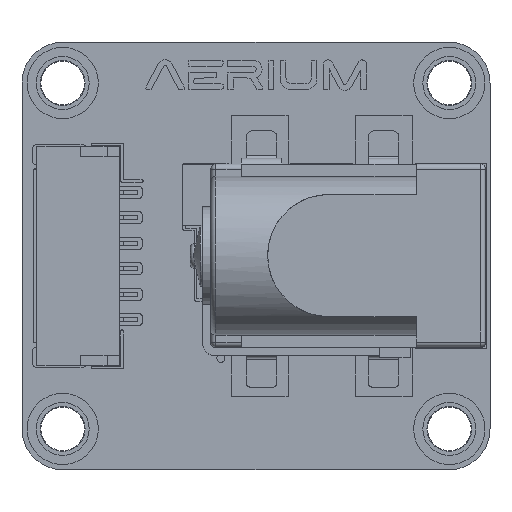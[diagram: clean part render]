
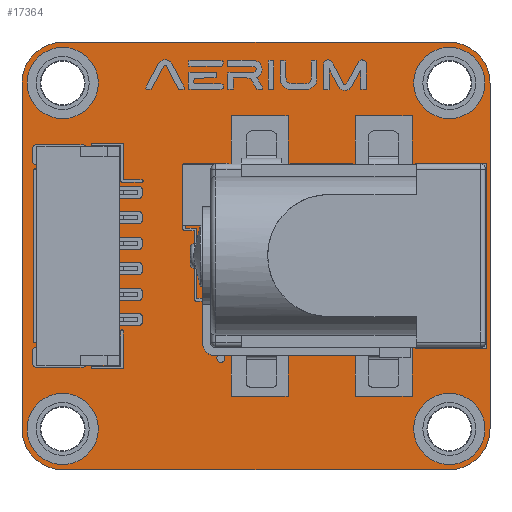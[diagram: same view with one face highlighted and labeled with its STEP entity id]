
A CAD part, top view. The second image highlights one B-rep face of the part: STEP entity #17364.
In plain terms, the highlighted planar face has unit normal (0, 0, 1).
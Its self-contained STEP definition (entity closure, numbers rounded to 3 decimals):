
#208=FACE_BOUND('',#2991,.T.);
#209=FACE_BOUND('',#2992,.T.);
#210=FACE_BOUND('',#2993,.T.);
#211=FACE_BOUND('',#2994,.T.);
#212=FACE_BOUND('',#2995,.T.);
#213=FACE_BOUND('',#2996,.T.);
#818=PLANE('',#18715);
#2090=FACE_OUTER_BOUND('',#2990,.T.);
#2990=EDGE_LOOP('',(#16309,#16310,#16311,#16312,#16313,#16314,#16315,#16316));
#2991=EDGE_LOOP('',(#16317));
#2992=EDGE_LOOP('',(#16318));
#2993=EDGE_LOOP('',(#16319));
#2994=EDGE_LOOP('',(#16320));
#2995=EDGE_LOOP('',(#16321));
#2996=EDGE_LOOP('',(#16322));
#5024=LINE('',#29822,#7059);
#5026=LINE('',#29826,#7061);
#5031=LINE('',#29856,#7066);
#5032=LINE('',#29860,#7067);
#7059=VECTOR('',#23203,1.);
#7061=VECTOR('',#23207,1.);
#7066=VECTOR('',#23236,1.);
#7067=VECTOR('',#23239,1.);
#7489=CIRCLE('',#18701,2.);
#7500=CIRCLE('',#18716,2.);
#7501=CIRCLE('',#18717,2.);
#7502=CIRCLE('',#18718,2.);
#7503=CIRCLE('',#18719,1.1);
#7504=CIRCLE('',#18720,1.1);
#7505=CIRCLE('',#18721,1.);
#7506=CIRCLE('',#18722,1.1);
#7507=CIRCLE('',#18723,0.9);
#7508=CIRCLE('',#18724,1.1);
#9278=VERTEX_POINT('',#29811);
#9279=VERTEX_POINT('',#29813);
#9282=VERTEX_POINT('',#29820);
#9283=VERTEX_POINT('',#29825);
#9295=VERTEX_POINT('',#29853);
#9296=VERTEX_POINT('',#29855);
#9297=VERTEX_POINT('',#29857);
#9298=VERTEX_POINT('',#29859);
#9299=VERTEX_POINT('',#29862);
#9300=VERTEX_POINT('',#29864);
#9301=VERTEX_POINT('',#29866);
#9302=VERTEX_POINT('',#29868);
#9303=VERTEX_POINT('',#29870);
#9304=VERTEX_POINT('',#29872);
#11776=EDGE_CURVE('',#9278,#9279,#7489,.T.);
#11780=EDGE_CURVE('',#9282,#9278,#5024,.T.);
#11782=EDGE_CURVE('',#9279,#9283,#5026,.T.);
#11796=EDGE_CURVE('',#9295,#9282,#7500,.T.);
#11797=EDGE_CURVE('',#9296,#9295,#5031,.T.);
#11798=EDGE_CURVE('',#9297,#9296,#7501,.T.);
#11799=EDGE_CURVE('',#9298,#9297,#5032,.T.);
#11800=EDGE_CURVE('',#9283,#9298,#7502,.T.);
#11801=EDGE_CURVE('',#9299,#9299,#7503,.T.);
#11802=EDGE_CURVE('',#9300,#9300,#7504,.T.);
#11803=EDGE_CURVE('',#9301,#9301,#7505,.T.);
#11804=EDGE_CURVE('',#9302,#9302,#7506,.T.);
#11805=EDGE_CURVE('',#9303,#9303,#7507,.T.);
#11806=EDGE_CURVE('',#9304,#9304,#7508,.T.);
#16309=ORIENTED_EDGE('',*,*,#11776,.F.);
#16310=ORIENTED_EDGE('',*,*,#11780,.F.);
#16311=ORIENTED_EDGE('',*,*,#11796,.F.);
#16312=ORIENTED_EDGE('',*,*,#11797,.F.);
#16313=ORIENTED_EDGE('',*,*,#11798,.F.);
#16314=ORIENTED_EDGE('',*,*,#11799,.F.);
#16315=ORIENTED_EDGE('',*,*,#11800,.F.);
#16316=ORIENTED_EDGE('',*,*,#11782,.F.);
#16317=ORIENTED_EDGE('',*,*,#11801,.T.);
#16318=ORIENTED_EDGE('',*,*,#11802,.T.);
#16319=ORIENTED_EDGE('',*,*,#11803,.T.);
#16320=ORIENTED_EDGE('',*,*,#11804,.T.);
#16321=ORIENTED_EDGE('',*,*,#11805,.T.);
#16322=ORIENTED_EDGE('',*,*,#11806,.T.);
#17364=ADVANCED_FACE('',(#2090,#208,#209,#210,#211,#212,#213),#818,.T.);
#18701=AXIS2_PLACEMENT_3D('',#29814,#23195,#23196);
#18715=AXIS2_PLACEMENT_3D('',#29852,#23232,#23233);
#18716=AXIS2_PLACEMENT_3D('',#29854,#23234,#23235);
#18717=AXIS2_PLACEMENT_3D('',#29858,#23237,#23238);
#18718=AXIS2_PLACEMENT_3D('',#29861,#23240,#23241);
#18719=AXIS2_PLACEMENT_3D('',#29863,#23242,#23243);
#18720=AXIS2_PLACEMENT_3D('',#29865,#23244,#23245);
#18721=AXIS2_PLACEMENT_3D('',#29867,#23246,#23247);
#18722=AXIS2_PLACEMENT_3D('',#29869,#23248,#23249);
#18723=AXIS2_PLACEMENT_3D('',#29871,#23250,#23251);
#18724=AXIS2_PLACEMENT_3D('',#29873,#23252,#23253);
#23195=DIRECTION('center_axis',(0.,0.,-1.));
#23196=DIRECTION('ref_axis',(0.,1.,0.));
#23203=DIRECTION('',(1.,0.,0.));
#23207=DIRECTION('',(0.,-1.,0.));
#23232=DIRECTION('center_axis',(0.,0.,1.));
#23233=DIRECTION('ref_axis',(1.,0.,0.));
#23234=DIRECTION('center_axis',(0.,0.,-1.));
#23235=DIRECTION('ref_axis',(-1.,0.,0.));
#23236=DIRECTION('',(0.,1.,0.));
#23237=DIRECTION('center_axis',(0.,0.,-1.));
#23238=DIRECTION('ref_axis',(0.,-1.,0.));
#23239=DIRECTION('',(-1.,0.,0.));
#23240=DIRECTION('center_axis',(0.,0.,-1.));
#23241=DIRECTION('ref_axis',(1.,0.,0.));
#23242=DIRECTION('center_axis',(0.,0.,-1.));
#23243=DIRECTION('ref_axis',(0.,-1.,0.));
#23244=DIRECTION('center_axis',(0.,0.,-1.));
#23245=DIRECTION('ref_axis',(0.,-1.,0.));
#23246=DIRECTION('center_axis',(0.,0.,-1.));
#23247=DIRECTION('ref_axis',(0.,-1.,0.));
#23248=DIRECTION('center_axis',(0.,0.,-1.));
#23249=DIRECTION('ref_axis',(0.,-1.,0.));
#23250=DIRECTION('center_axis',(0.,0.,-1.));
#23251=DIRECTION('ref_axis',(0.,-1.,0.));
#23252=DIRECTION('center_axis',(0.,0.,-1.));
#23253=DIRECTION('ref_axis',(0.,-1.,0.));
#29811=CARTESIAN_POINT('',(136.75,-57.75,1.51));
#29813=CARTESIAN_POINT('',(138.75,-59.75,1.51));
#29814=CARTESIAN_POINT('Origin',(136.75,-59.75,1.51));
#29820=CARTESIAN_POINT('',(117.75,-57.75,1.51));
#29822=CARTESIAN_POINT('',(117.75,-57.75,1.51));
#29825=CARTESIAN_POINT('',(138.75,-76.75,1.51));
#29826=CARTESIAN_POINT('',(138.75,-59.75,1.51));
#29852=CARTESIAN_POINT('Origin',(0.,0.,1.51));
#29853=CARTESIAN_POINT('',(115.75,-59.75,1.51));
#29854=CARTESIAN_POINT('Origin',(117.75,-59.75,1.51));
#29855=CARTESIAN_POINT('',(115.75,-76.75,1.51));
#29856=CARTESIAN_POINT('',(115.75,-76.75,1.51));
#29857=CARTESIAN_POINT('',(117.75,-78.75,1.51));
#29858=CARTESIAN_POINT('Origin',(117.75,-76.75,1.51));
#29859=CARTESIAN_POINT('',(136.75,-78.75,1.51));
#29860=CARTESIAN_POINT('',(136.75,-78.75,1.51));
#29861=CARTESIAN_POINT('Origin',(136.75,-76.75,1.51));
#29862=CARTESIAN_POINT('',(117.75,-75.65,1.51));
#29863=CARTESIAN_POINT('Origin',(117.75,-76.75,1.51));
#29864=CARTESIAN_POINT('',(136.75,-75.65,1.51));
#29865=CARTESIAN_POINT('Origin',(136.75,-76.75,1.51));
#29866=CARTESIAN_POINT('',(129.025,-67.25,1.51));
#29867=CARTESIAN_POINT('Origin',(129.025,-68.25,1.51));
#29868=CARTESIAN_POINT('',(117.75,-58.65,1.51));
#29869=CARTESIAN_POINT('Origin',(117.75,-59.75,1.51));
#29870=CARTESIAN_POINT('',(133.525,-67.35,1.51));
#29871=CARTESIAN_POINT('Origin',(133.525,-68.25,1.51));
#29872=CARTESIAN_POINT('',(136.75,-58.65,1.51));
#29873=CARTESIAN_POINT('Origin',(136.75,-59.75,1.51));
